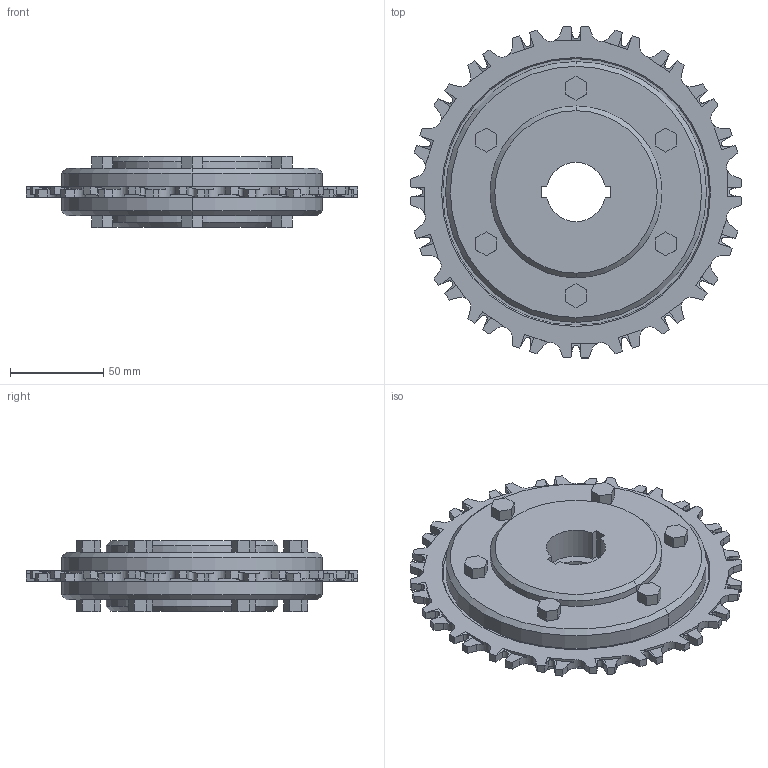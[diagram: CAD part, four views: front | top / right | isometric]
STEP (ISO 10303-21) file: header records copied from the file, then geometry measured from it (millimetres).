
FILE_DESCRIPTION((''),'2;1');
FILE_NAME('S900_SPL_PLASTIC_68_ROUND_ASM','2008-12-12T',('jmumphre'),(''),'PRO/ENGINEER BY PARAMETRIC TECHNOLOGY CORPORATION, 2008150','PRO/ENGINEER BY PARAMETRIC TECHNOLOGY CORPORATION, 2008150','');
FILE_SCHEMA(('CONFIG_CONTROL_DESIGN'));
Length unit declared in the file: inch
Products named in the file (5): S900_TP_PLASTIC_68X270_SQ_AF1; JOINING_PLATE_6_ROUND_AF0; JOINING_PLATE_6_ROUND_AF1; BOLTS_N_NUTS_4-376X1-000_AF0; S900_SPL_PLASTIC_68_ROUND_ASM
Assembly tree (4 placements, depth 2):
  S900_SPL_PLASTIC_68_ROUND_ASM
    S900_TP_PLASTIC_68X270_SQ_AF1
    JOINING_PLATE_6_ROUND_AF0
    JOINING_PLATE_6_ROUND_AF1
    BOLTS_N_NUTS_4-376X1-000_AF0
Bounding box: 177.86 x 177.86 x 38.1 mm (x, y, z)
Volume: 467490.5 mm3; surface area: 125416.1 mm2
Topology: 9 solids, 9 shells, 478 faces, 1324 edges, 880 vertices
Faces by surface type: plane 362, cylinder 104, cone 12
Entity records: 16003 total; most frequent: CARTESIAN_POINT 3413, ORIENTED_EDGE 2648, DIRECTION 2482, EDGE_CURVE 1324, VECTOR 1060, LINE 1060, VERTEX_POINT 880, AXIS2_PLACEMENT_3D 711
